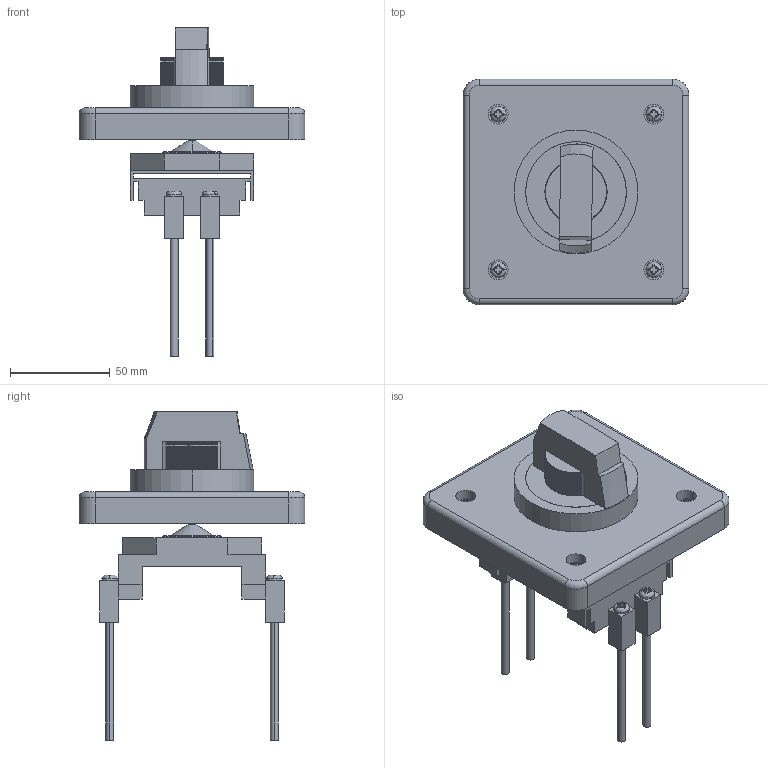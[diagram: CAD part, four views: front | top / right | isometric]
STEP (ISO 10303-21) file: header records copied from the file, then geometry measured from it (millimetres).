
FILE_DESCRIPTION (( 'STEP AP214' ), '1' );
FILE_NAME ('BW9V0BA.STEP', '2013-10-08T00:45:15', ( '川崎工場' ), ( '富士電機システムズ株式会社' ), 'SwSTEP 2.0', 'SolidWorks 2005204', '' );
FILE_SCHEMA (( 'AUTOMOTIVE_DESIGN' ));
Length unit declared in the file: millimetre
Products named in the file (8): BW9V0BA; BW9V0BA_Habdle_unit_蹬怮椔; BW9V0BA_Handle_蹬怮椔; Screw_M4_L80_蹬怮椔; BW9V0BA_Screw_M4_L80_Asm_蹬怮椔; Screw_M4_L10_蹬怮椔; BW9V0BA_Screw_M4_L10_Asm_蹬怮椔; BW9V0BA_Drive_unit_蹬怮椔
Assembly tree (13 placements, depth 3):
  BW9V0BA
    BW9V0BA_Handle_蹬怮椔
    BW9V0BA_Screw_M4_L80_Asm_蹬怮椔
      Screw_M4_L80_蹬怮椔  x4
    BW9V0BA_Screw_M4_L10_Asm_蹬怮椔
      Screw_M4_L10_蹬怮椔  x4
    BW9V0BA_Drive_unit_蹬怮椔
    BW9V0BA_Habdle_unit_蹬怮椔
Bounding box: 113 x 113 x 164.3 mm (x, y, z)
Volume: 304157.8 mm3; surface area: 77003.1 mm2
Topology: 11 solids, 12 shells, 667 faces, 1852 edges, 1222 vertices
Faces by surface type: cylinder 373, plane 252, torus 20, cone 20, bspline 2
Entity records: 16775 total; most frequent: DIRECTION 3078, CARTESIAN_POINT 3071, ORIENTED_EDGE 2792, EDGE_CURVE 1396, AXIS2_PLACEMENT_3D 1217, VERTEX_POINT 922, CIRCLE 708, VECTOR 644
